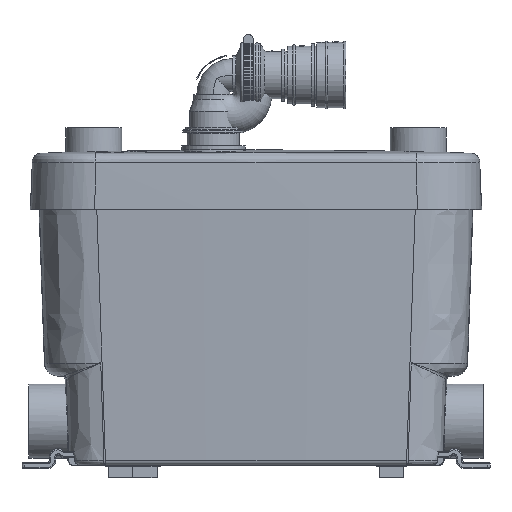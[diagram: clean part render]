
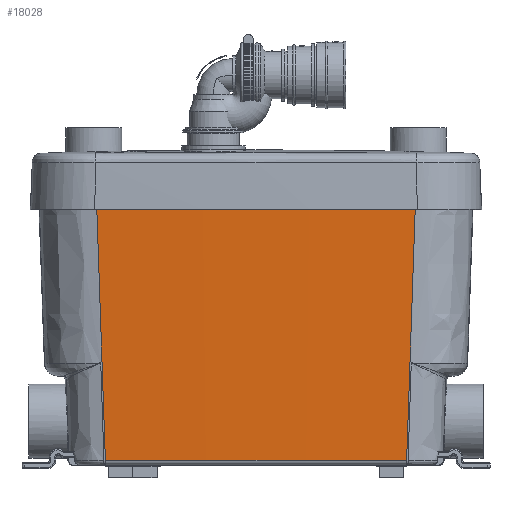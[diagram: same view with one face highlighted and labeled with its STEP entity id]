
A CAD part, top view. The second image highlights one B-rep face of the part: STEP entity #18028.
In plain terms, the highlighted conical face has half-angle 2 degrees and reference radius 5171.5 mm.
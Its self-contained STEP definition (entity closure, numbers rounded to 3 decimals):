
#1325 = DIRECTION ( 'NONE',  ( 0., 0., 1. ) ) ;
#4185 = ORIENTED_EDGE ( 'NONE', *, *, #8458, .T. ) ;
#4475 = ORIENTED_EDGE ( 'NONE', *, *, #31251, .F. ) ;
#5563 = CIRCLE ( 'NONE', #31556, 5162.963 ) ;
#5827 = DIRECTION ( 'NONE',  ( 0., 1., 0. ) ) ;
#6070 = CARTESIAN_POINT ( 'NONE',  ( -126.121, -164.033, 81.483 ) ) ;
#7033 = B_SPLINE_CURVE_WITH_KNOTS ( 'NONE', 3,
 ( #32803, #32243, #9177, #12534 ),
 .UNSPECIFIED., .F., .F.,
 ( 4, 4 ),
 ( 0.004, 0.246 ),
 .UNSPECIFIED. ) ;
#8458 = EDGE_CURVE ( 'NONE', #22277, #40140, #5563, .T. ) ;
#9177 = CARTESIAN_POINT ( 'NONE',  ( 128.877, -83.517, 84.227 ) ) ;
#11464 = EDGE_LOOP ( 'NONE', ( #4475, #33676, #4185, #13129 ) ) ;
#12534 = CARTESIAN_POINT ( 'NONE',  ( 131.625, -3., 86.97 ) ) ;
#13129 = ORIENTED_EDGE ( 'NONE', *, *, #13919, .T. ) ;
#13919 = EDGE_CURVE ( 'NONE', #40140, #34616, #7033, .T. ) ;
#14473 = FACE_OUTER_BOUND ( 'NONE', #11464, .T. ) ;
#14894 = EDGE_CURVE ( 'NONE', #30000, #22277, #32792, .T. ) ;
#16420 = CARTESIAN_POINT ( 'NONE',  ( 131.625, -3., 86.97 ) ) ;
#17944 = DIRECTION ( 'NONE',  ( 0., 1., 0. ) ) ;
#18028 = ADVANCED_FACE ( 'NONE', ( #14473 ), #28044, .T. ) ;
#20568 = CARTESIAN_POINT ( 'NONE',  ( 123.356, -244.55, 78.736 ) ) ;
#21536 = AXIS2_PLACEMENT_3D ( 'NONE', #37960, #17944, #41333 ) ;
#21926 = CARTESIAN_POINT ( 'NONE',  ( 0., 0., -5082.753 ) ) ;
#22277 = VERTEX_POINT ( 'NONE', #38371 ) ;
#26115 = CARTESIAN_POINT ( 'NONE',  ( -128.877, -83.517, 84.227 ) ) ;
#27267 = CIRCLE ( 'NONE', #21536, 5171.398 ) ;
#28044 = CONICAL_SURFACE ( 'NONE', #30825, 5171.503, 0.035 ) ;
#29476 = CARTESIAN_POINT ( 'NONE',  ( -123.356, -244.55, 78.736 ) ) ;
#30000 = VERTEX_POINT ( 'NONE', #43067 ) ;
#30825 = AXIS2_PLACEMENT_3D ( 'NONE', #21926, #41821, #1325 ) ;
#31251 = EDGE_CURVE ( 'NONE', #30000, #34616, #27267, .T. ) ;
#31556 = AXIS2_PLACEMENT_3D ( 'NONE', #43405, #5827, #40572 ) ;
#32243 = CARTESIAN_POINT ( 'NONE',  ( 126.121, -164.033, 81.483 ) ) ;
#32792 = B_SPLINE_CURVE_WITH_KNOTS ( 'NONE', 3,
 ( #42828, #26115, #6070, #29476 ),
 .UNSPECIFIED., .F., .F.,
 ( 4, 4 ),
 ( 0.003, 0.245 ),
 .UNSPECIFIED. ) ;
#32803 = CARTESIAN_POINT ( 'NONE',  ( 123.356, -244.55, 78.736 ) ) ;
#33676 = ORIENTED_EDGE ( 'NONE', *, *, #14894, .T. ) ;
#34616 = VERTEX_POINT ( 'NONE', #16420 ) ;
#37960 = CARTESIAN_POINT ( 'NONE',  ( 0., -3., -5082.753 ) ) ;
#38371 = CARTESIAN_POINT ( 'NONE',  ( -123.356, -244.55, 78.736 ) ) ;
#40140 = VERTEX_POINT ( 'NONE', #20568 ) ;
#40572 = DIRECTION ( 'NONE',  ( 0., 0., 1. ) ) ;
#41333 = DIRECTION ( 'NONE',  ( 0., 0., -1. ) ) ;
#41821 = DIRECTION ( 'NONE',  ( 0., 1., 0. ) ) ;
#42828 = CARTESIAN_POINT ( 'NONE',  ( -131.625, -3., 86.97 ) ) ;
#43067 = CARTESIAN_POINT ( 'NONE',  ( -131.625, -3., 86.97 ) ) ;
#43405 = CARTESIAN_POINT ( 'NONE',  ( 0., -244.55, -5082.753 ) ) ;
